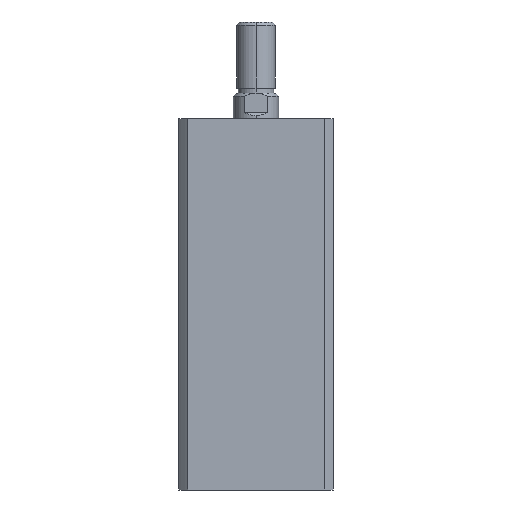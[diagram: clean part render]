
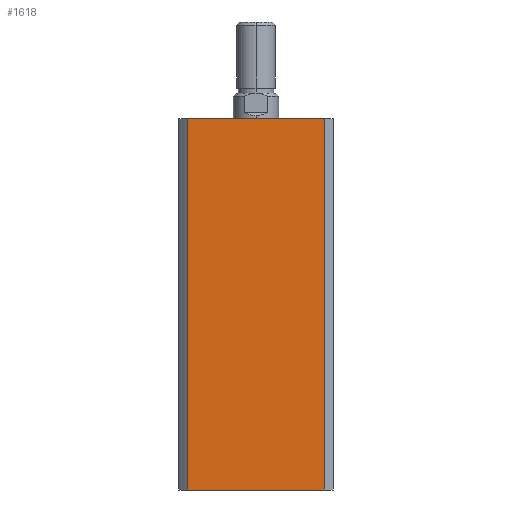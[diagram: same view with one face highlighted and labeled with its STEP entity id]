
A CAD part, left-side view. The second image highlights one B-rep face of the part: STEP entity #1618.
In plain terms, the highlighted planar face has unit normal (-1, 0, 0).
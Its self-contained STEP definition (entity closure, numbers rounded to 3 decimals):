
#29 = CARTESIAN_POINT ( 'NONE',  ( -24., -21.166, 0. ) ) ;
#71 = VERTEX_POINT ( 'NONE', #29 ) ;
#136 = VERTEX_POINT ( 'NONE', #3499 ) ;
#199 = VERTEX_POINT ( 'NONE', #3469 ) ;
#467 = FACE_OUTER_BOUND ( 'NONE', #2448, .T. ) ;
#522 = LINE ( 'NONE', #3976, #525 ) ;
#525 = VECTOR ( 'NONE', #3966, 1000. ) ;
#527 = LINE ( 'NONE', #3977, #529 ) ;
#529 = VECTOR ( 'NONE', #3979, 1000. ) ;
#767 = DIRECTION ( 'NONE',  ( 0., -1., 0. ) ) ;
#785 = CARTESIAN_POINT ( 'NONE',  ( -24., 0., 0. ) ) ;
#1258 = CARTESIAN_POINT ( 'NONE',  ( -24., 0., 115. ) ) ;
#1259 = DIRECTION ( 'NONE',  ( 0., -1., 0. ) ) ;
#1492 = VERTEX_POINT ( 'NONE', #3371 ) ;
#1618 = ADVANCED_FACE ( 'NONE', ( #467 ), #3706, .F. ) ;
#1687 = EDGE_CURVE ( 'NONE', #199, #71, #522, .T. ) ;
#1688 = EDGE_CURVE ( 'NONE', #136, #1492, #527, .T. ) ;
#2438 = EDGE_CURVE ( 'NONE', #1492, #71, #4245, .T. ) ;
#2448 = EDGE_LOOP ( 'NONE', ( #3009, #3010, #3011, #3012 ) ) ;
#3009 = ORIENTED_EDGE ( 'NONE', *, *, #2438, .T. ) ;
#3010 = ORIENTED_EDGE ( 'NONE', *, *, #1687, .F. ) ;
#3011 = ORIENTED_EDGE ( 'NONE', *, *, #4736, .F. ) ;
#3012 = ORIENTED_EDGE ( 'NONE', *, *, #1688, .T. ) ;
#3371 = CARTESIAN_POINT ( 'NONE',  ( -24., 21.166, 0. ) ) ;
#3469 = CARTESIAN_POINT ( 'NONE',  ( -24., -21.166, 115. ) ) ;
#3499 = CARTESIAN_POINT ( 'NONE',  ( -24., 21.166, 115. ) ) ;
#3702 = CARTESIAN_POINT ( 'NONE',  ( -24., 0., 115. ) ) ;
#3706 = PLANE ( 'NONE',  #4985 ) ;
#3708 = DIRECTION ( 'NONE',  ( 1., 0., 0. ) ) ;
#3709 = DIRECTION ( 'NONE',  ( 0., 0., -1. ) ) ;
#3966 = DIRECTION ( 'NONE',  ( 0., 0., -1. ) ) ;
#3976 = CARTESIAN_POINT ( 'NONE',  ( -24., -21.166, 115. ) ) ;
#3977 = CARTESIAN_POINT ( 'NONE',  ( -24., 21.166, 115. ) ) ;
#3979 = DIRECTION ( 'NONE',  ( 0., 0., -1. ) ) ;
#4245 = LINE ( 'NONE', #785, #4247 ) ;
#4247 = VECTOR ( 'NONE', #767, 1000. ) ;
#4373 = LINE ( 'NONE', #1258, #4375 ) ;
#4375 = VECTOR ( 'NONE', #1259, 1000. ) ;
#4736 = EDGE_CURVE ( 'NONE', #136, #199, #4373, .T. ) ;
#4985 = AXIS2_PLACEMENT_3D ( 'NONE', #3702, #3708, #3709 ) ;
